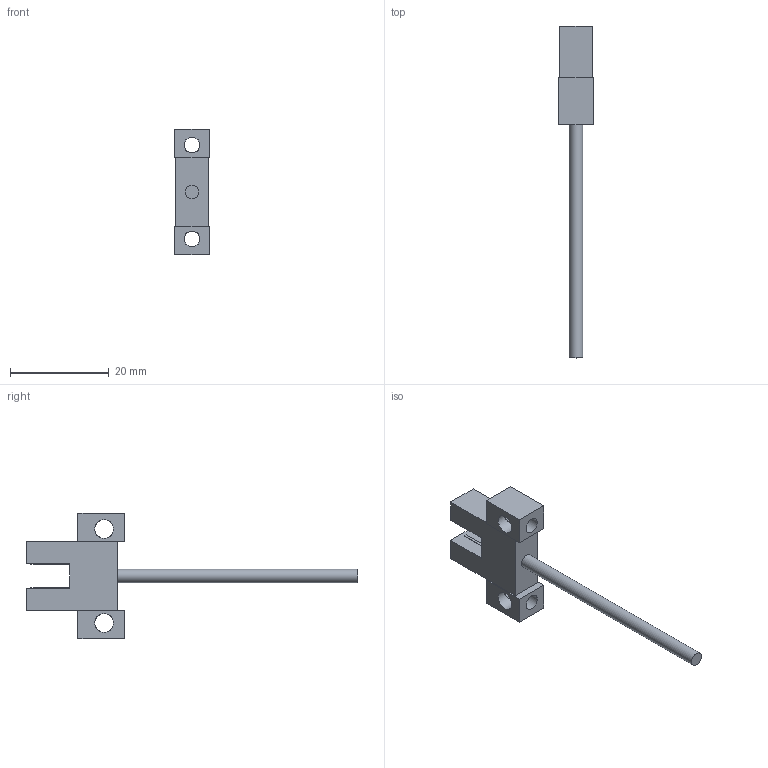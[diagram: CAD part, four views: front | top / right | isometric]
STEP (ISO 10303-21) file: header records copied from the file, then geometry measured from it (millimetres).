
FILE_DESCRIPTION(/* description */ (''),/* implementation_level */ '2;1');
FILE_NAME(/* name */ 'F:\HUAYIFENG\01)HUAYIFENG_宣传文件\01)HUAYIFENG_\X2\5BA34F2065874EF6\X0\_产品资料整合\03)产品3D文档\03)产品3D_槽型系列_K12_2019\03-03)LU45系列_3D\LU_K45.stp',/* time_stamp */ '2020-08-12T19:11:40+08:00',/* author */ ('fengjiarun'),/* organization */ (''),/* preprocessor_version */ 'ST-DEVELOPER v16.5',/* originating_system */ 'Autodesk Inventor 2017',/* authorisation */ '');
FILE_SCHEMA (('AUTOMOTIVE_DESIGN { 1 0 10303 214 3 1 1 }'));
Length unit declared in the file: millimetre
Products named in the file (1): 零件17
Bounding box: 7 x 67.2 x 25.4 mm (x, y, z)
Volume: 2199.6 mm3; surface area: 2017.3 mm2
Topology: 1 solids, 1 shells, 54 faces, 145 edges, 96 vertices
Faces by surface type: plane 47, cylinder 7
Full cylindrical faces by diameter (mm): 2.8 x1, 3.2 x4, 3.8 x2
Entity records: 1829 total; most frequent: CARTESIAN_POINT 449, ORIENTED_EDGE 272, DIRECTION 252, EDGE_CURVE 136, LINE 122, VECTOR 122, VERTEX_POINT 94, EDGE_LOOP 76
